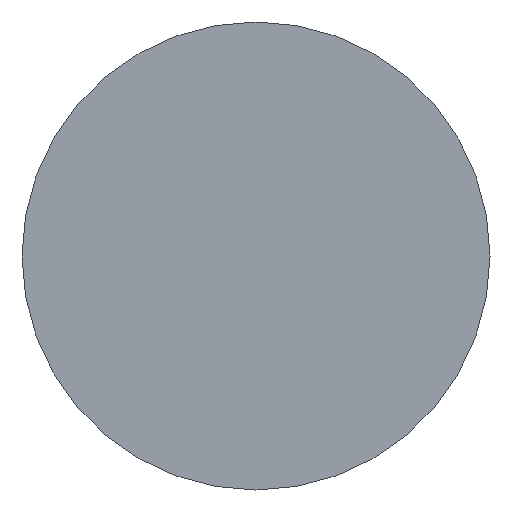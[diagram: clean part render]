
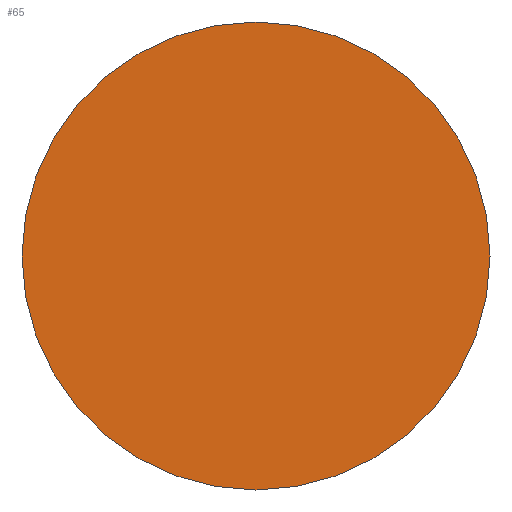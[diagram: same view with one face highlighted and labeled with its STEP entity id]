
A CAD part, left-side view. The second image highlights one B-rep face of the part: STEP entity #65.
In plain terms, the highlighted planar face has unit normal (-1, 0, 0).
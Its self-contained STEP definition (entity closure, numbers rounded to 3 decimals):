
#8 = CARTESIAN_POINT ( 'NONE',  ( 0., 0., 0. ) ) ;
#15 = VERTEX_POINT ( 'NONE', #116 ) ;
#17 = EDGE_LOOP ( 'NONE', ( #34, #42 ) ) ;
#19 = CARTESIAN_POINT ( 'NONE',  ( 0., 0., 0. ) ) ;
#34 = ORIENTED_EDGE ( 'NONE', *, *, #190, .T. ) ;
#42 = ORIENTED_EDGE ( 'NONE', *, *, #123, .T. ) ;
#47 = CARTESIAN_POINT ( 'NONE',  ( 0., 0., 1.75 ) ) ;
#59 = VERTEX_POINT ( 'NONE', #47 ) ;
#62 = FACE_OUTER_BOUND ( 'NONE', #17, .T. ) ;
#65 = ADVANCED_FACE ( 'NONE', ( #62 ), #279, .F. ) ;
#94 = AXIS2_PLACEMENT_3D ( 'NONE', #183, #221, #223 ) ;
#114 = DIRECTION ( 'NONE',  ( 0., 0., 1. ) ) ;
#116 = CARTESIAN_POINT ( 'NONE',  ( 0., 0., -1.75 ) ) ;
#123 = EDGE_CURVE ( 'NONE', #15, #59, #266, .T. ) ;
#181 = CIRCLE ( 'NONE', #285, 1.75 ) ;
#183 = CARTESIAN_POINT ( 'NONE',  ( 0., 0., 0. ) ) ;
#190 = EDGE_CURVE ( 'NONE', #59, #15, #181, .T. ) ;
#203 = AXIS2_PLACEMENT_3D ( 'NONE', #8, #218, #206 ) ;
#206 = DIRECTION ( 'NONE',  ( 0., 0., 1. ) ) ;
#218 = DIRECTION ( 'NONE',  ( -1., 0., 0. ) ) ;
#221 = DIRECTION ( 'NONE',  ( 1., 0., 0. ) ) ;
#223 = DIRECTION ( 'NONE',  ( 0., 0., -1. ) ) ;
#265 = DIRECTION ( 'NONE',  ( -1., 0., 0. ) ) ;
#266 = CIRCLE ( 'NONE', #203, 1.75 ) ;
#279 = PLANE ( 'NONE',  #94 ) ;
#285 = AXIS2_PLACEMENT_3D ( 'NONE', #19, #265, #114 ) ;
